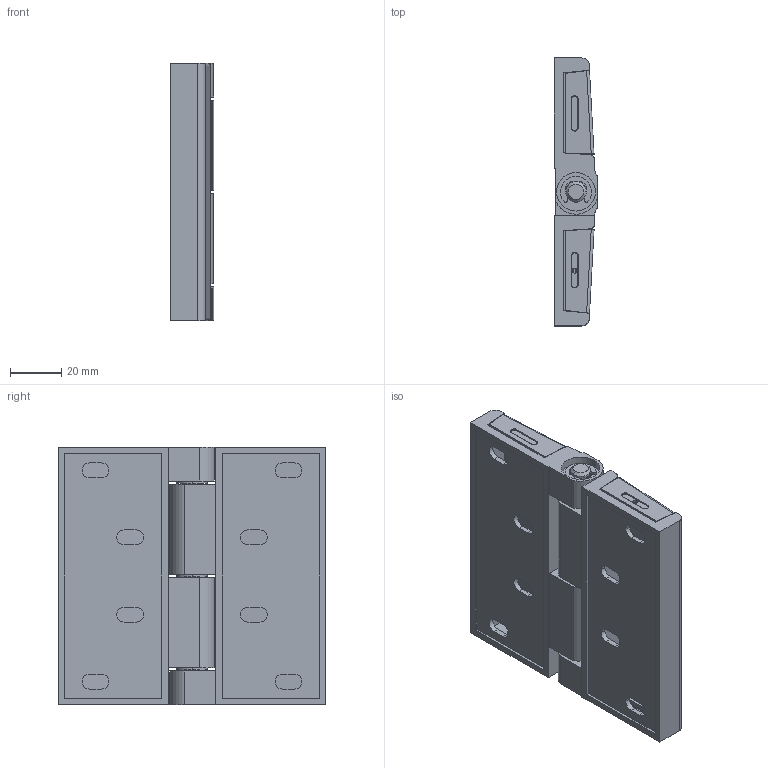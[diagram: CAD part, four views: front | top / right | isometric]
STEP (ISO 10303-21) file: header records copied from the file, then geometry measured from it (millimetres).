
FILE_DESCRIPTION (( 'STEP AP203' ), '1' );
FILE_NAME ('CL251Z3H001.STEP', '2016-07-14T06:35:21', ( 'master' ), ( 'Microsoft' ), 'SwSTEP 2.0', 'SolidWorks 2014', '' );
FILE_SCHEMA (( 'CONFIG_CONTROL_DESIGN' ));
Length unit declared in the file: millimetre
Products named in the file (6): CL251Z3H001; CL251 Hinge; CL251 Hinge Cover; CL251 Washer; CL251 Pin; E rings GB_E型挡圈6
Assembly tree (10 placements, depth 2):
  CL251Z3H001
    CL251 Hinge  x2
    CL251 Hinge Cover  x2
    CL251 Washer  x3
    CL251 Pin
    E rings GB_E型挡圈6  x2
Bounding box: 17 x 104 x 100 mm (x, y, z)
Volume: 82839.9 mm3; surface area: 57935.6 mm2
Topology: 10 solids, 10 shells, 476 faces, 1254 edges, 820 vertices
Faces by surface type: plane 254, cylinder 190, torus 28, cone 4
Entity records: 8402 total; most frequent: CARTESIAN_POINT 1370, DIRECTION 1366, ORIENTED_EDGE 1280, EDGE_CURVE 640, AXIS2_PLACEMENT_3D 480, VERTEX_POINT 418, LINE 406, VECTOR 406
